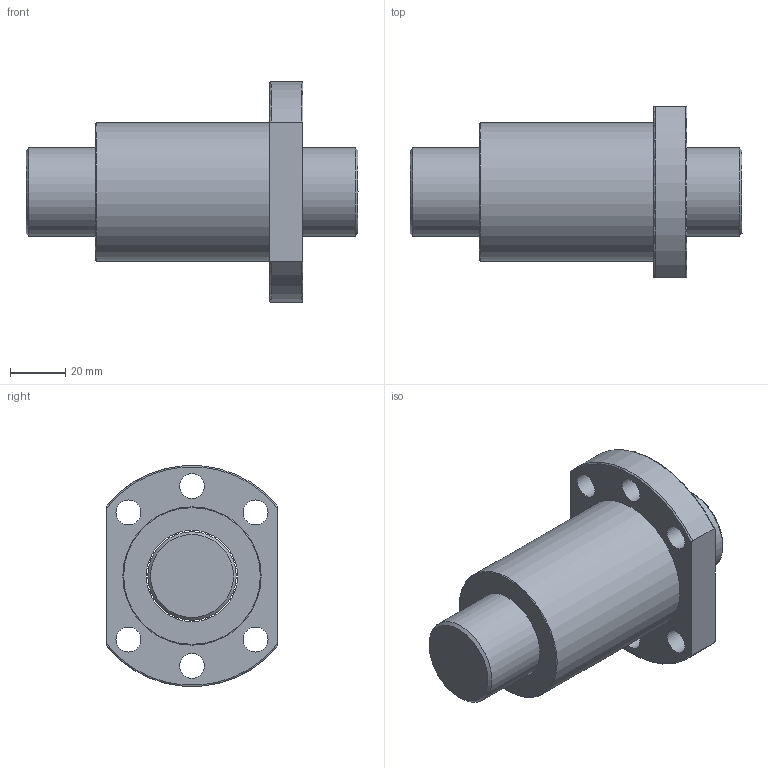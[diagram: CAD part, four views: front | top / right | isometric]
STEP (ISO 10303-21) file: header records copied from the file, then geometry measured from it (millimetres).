
FILE_DESCRIPTION(/* description */ (''),/* implementation_level */ '2;1');
FILE_NAME(/* name */ 'SFS3220',/* time_stamp */ '2007-10-26T11:15:37+08:00',/* author */ (''),/* organization */ (''),/* preprocessor_version */ 'ST-DEVELOPER v9',/* originating_system */ 'UGS - NX 3.0',/* authorisation */ '');
FILE_SCHEMA (('CONFIG_CONTROL_DESIGN'));
Length unit declared in the file: millimetre
Products named in the file (1): jaso37B0hu7v
Bounding box: 120 x 62 x 79.74 mm (x, y, z)
Volume: 198876.9 mm3; surface area: 42687.8 mm2
Topology: 2 solids, 2 shells, 27 faces, 61 edges, 40 vertices
Faces by surface type: cylinder 12, plane 8, torus 5, cone 2
Full cylindrical faces by diameter (mm): 9 x6, 32 x1, 33 x1, 49.5 x1, 50 x1
Entity records: 961 total; most frequent: CARTESIAN_POINT 284, DIRECTION 123, ORIENTED_EDGE 96, AXIS2_PLACEMENT_3D 59, EDGE_LOOP 56, EDGE_CURVE 48, FACE_BOUND 40, VERTEX_POINT 40
